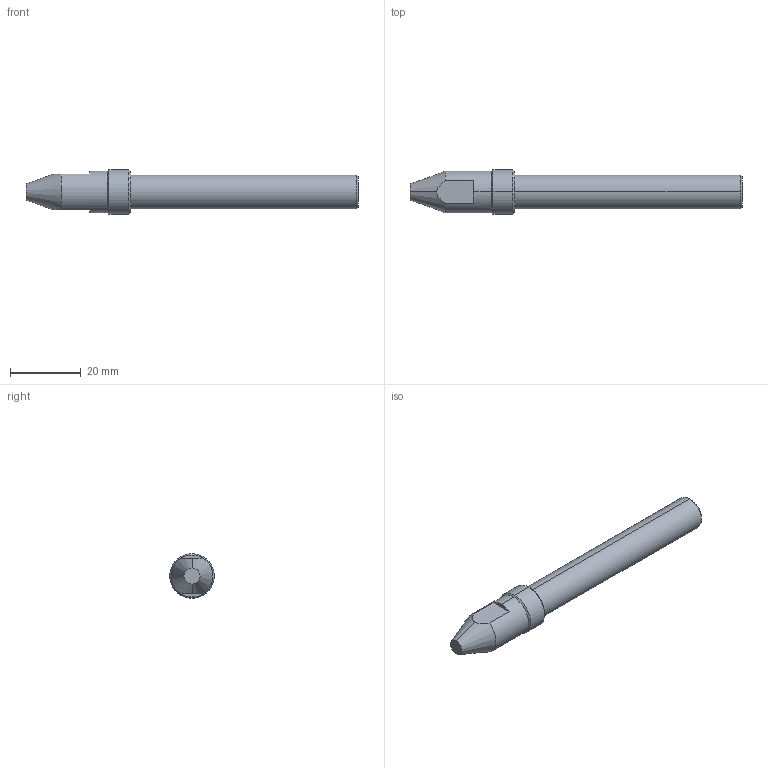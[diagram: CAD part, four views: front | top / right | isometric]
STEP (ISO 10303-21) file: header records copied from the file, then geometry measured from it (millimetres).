
FILE_DESCRIPTION (( 'STEP AP214' ), '1' );
FILE_NAME ('GZ30.13_V1锁紧销.STEP', '2021-06-05T08:40:36', ( '微软中国' ), ( 'Microsoft' ), 'SwSTEP 2.0', 'SolidWorks 2017', '' );
FILE_SCHEMA (( 'AUTOMOTIVE_DESIGN' ));
Length unit declared in the file: millimetre
Products named in the file (1): GZ30.13_V1坶踡种
Bounding box: 93.7 x 12.6 x 12.6 mm (x, y, z)
Volume: 7162.8 mm3; surface area: 3172.4 mm2
Topology: 1 solids, 1 shells, 25 faces, 56 edges, 33 vertices
Faces by surface type: cone 10, cylinder 8, plane 7
Entity records: 778 total; most frequent: CARTESIAN_POINT 161, DIRECTION 128, ORIENTED_EDGE 108, EDGE_CURVE 54, AXIS2_PLACEMENT_3D 52, VERTEX_POINT 33, EDGE_LOOP 27, CIRCLE 26
